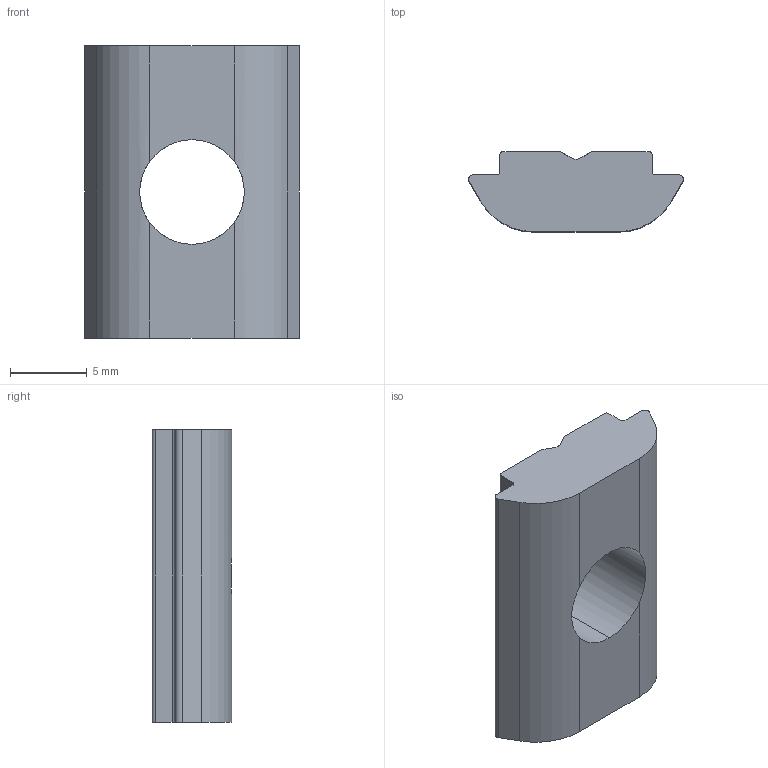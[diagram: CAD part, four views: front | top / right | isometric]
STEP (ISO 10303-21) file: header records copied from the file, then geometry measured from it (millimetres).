
FILE_DESCRIPTION (( 'STEP AP203' ), '1' );
FILE_NAME ('332050_Nutenstein Nut 10 M8 einschwenkbar.step', '2022-02-28T07:08:10', ( '' ), ( '' ), 'SwSTEP 2.0', 'SolidWorks 2021', '' );
FILE_SCHEMA (( 'CONFIG_CONTROL_DESIGN' ));
Length unit declared in the file: millimetre
Products named in the file (1): 332050_Nutenstein Nut 10 M8 einschwenkbar
Bounding box: 13.96 x 5.2 x 19 mm (x, y, z)
Volume: 913.6 mm3; surface area: 802.8 mm2
Topology: 1 solids, 1 shells, 29 faces, 87 edges, 58 vertices
Faces by surface type: plane 16, cylinder 13
Entity records: 1098 total; most frequent: CARTESIAN_POINT 229, ORIENTED_EDGE 174, DIRECTION 163, EDGE_CURVE 87, VERTEX_POINT 58, AXIS2_PLACEMENT_3D 56, LINE 51, VECTOR 51
